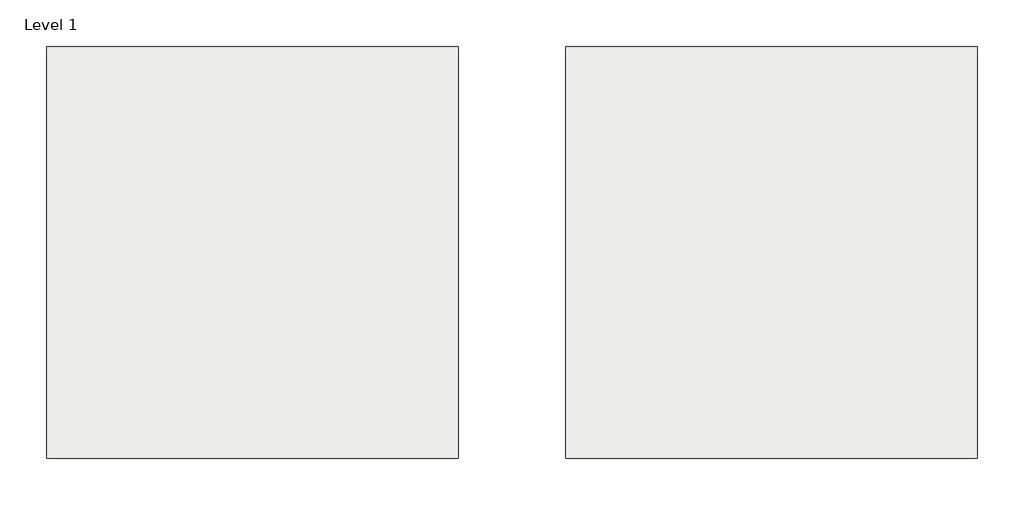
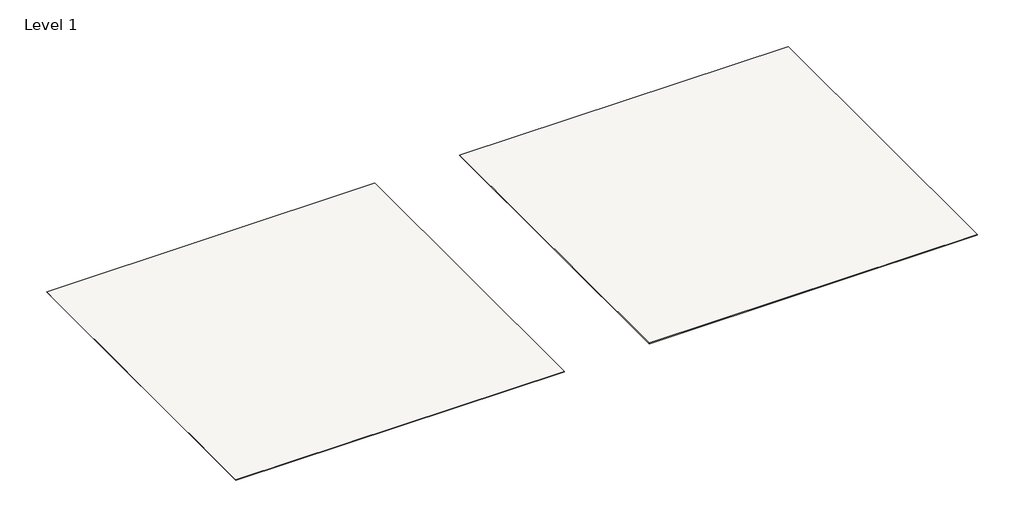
# One storey: 2 slabs.
"""IFC4 building model written with IfcOpenShell, lengths in millimetres."""

import ifcopenshell
import ifcopenshell.guid

model = None  # the IFC model being written
_history = None  # IfcOwnerHistory: only IFC2X3 demands one
_inside = {}  # id of a spatial element -> (the spatial element, [elements in it])
_under = {}  # id of a project, library or spatial element -> (it, [spatial elements below it])
_declared = {}  # id of a project -> (the project, [libraries it declares])
_typed = {}  # id of a type object -> (the type object, [elements of that type])
_made_of = {}  # id of a material, layer set ... -> (it, [elements and type objects made of it])


def new_model(schema):
    """Start an empty IFC model of exactly this schema.

    Asked for "IFC4X3", IfcOpenShell would pick the latest addendum, in which some entities
    have other attributes; the version numbers below select the first issue.
    IFC2X3 requires an IfcOwnerHistory on every rooted entity: one is made here for all.
    """
    global model, _history
    if schema == "IFC4X3":
        model = ifcopenshell.file(schema_version=(4, 3, 0, 0))
    else:
        model = ifcopenshell.file(schema=schema)
    _inside.clear()
    _under.clear()
    _declared.clear()
    _typed.clear()
    _made_of.clear()
    _history = None
    if model.schema == "IFC2X3":
        org = make("IfcOrganization", Name="unknown")
        user = make(
            "IfcPersonAndOrganization",
            ThePerson=make("IfcPerson", FamilyName="unknown"),
            TheOrganization=org,
        )
        app = make(
            "IfcApplication",
            ApplicationDeveloper=org,
            Version="unknown",
            ApplicationFullName="unknown",
            ApplicationIdentifier="unknown",
        )
        _history = make(
            "IfcOwnerHistory",
            OwningUser=user,
            OwningApplication=app,
            ChangeAction="ADDED",
            CreationDate=0,
        )
    return model


def make(cls, **values):
    """One entity of the class cls with the attributes given. An attribute that is None is left unset."""
    return model.create_entity(
        cls, **{name: value for name, value in values.items() if value is not None}
    )


def rooted(cls, **values):
    """An entity with a GlobalId (a new one), such as an element, a storey or a relation."""
    return make(cls, GlobalId=ifcopenshell.guid.new(), OwnerHistory=_history, **values)


def si_unit(unit_type, name, prefix=None):
    """IfcSIUnit, for example si_unit("LENGTHUNIT", "METRE", prefix="MILLI")."""
    return make("IfcSIUnit", UnitType=unit_type, Prefix=prefix, Name=name)


def assignment(units):
    """IfcUnitAssignment: the units of a project."""
    return None if units is None else make("IfcUnitAssignment", Units=units)


def point(xyz):
    """IfcCartesianPoint."""
    return None if xyz is None else make("IfcCartesianPoint", Coordinates=xyz)


def direction(xyz):
    """IfcDirection."""
    return None if xyz is None else make("IfcDirection", DirectionRatios=xyz)


def frame(location, z_axis=None, x_axis=None):
    """IfcAxis2Placement3D, a coordinate frame: its origin and axes. An axis left out is left unset."""
    return make(
        "IfcAxis2Placement3D",
        Location=point(location),
        Axis=direction(z_axis),
        RefDirection=direction(x_axis),
    )


def origin():
    """The frame at (0, 0, 0) with its axes left unset."""
    return frame((0.0, 0.0, 0.0))


def place(relative_to, where):
    """IfcLocalPlacement: puts the frame where relative to a parent placement (None: the world)."""
    return make(
        "IfcLocalPlacement", PlacementRelTo=relative_to, RelativePlacement=where
    )


def context(
    kind, dimensions, precision=None, world=None, true_north=None, identifier=None
):
    """IfcGeometricRepresentationContext, for example the 3D "Model" context."""
    return make(
        "IfcGeometricRepresentationContext",
        ContextIdentifier=identifier,
        ContextType=kind,
        CoordinateSpaceDimension=dimensions,
        Precision=precision,
        WorldCoordinateSystem=world,
        TrueNorth=true_north,
    )


def project(units=None, contexts=None):
    """IfcProject with its units and contexts."""
    return rooted(
        "IfcProject",
        Name="project",
        RepresentationContexts=contexts,
        UnitsInContext=assignment(units),
    )


def spatial(cls, under=None, at=None, **own):
    """A site, building, storey or space (cls), placed at a placement, below another one or the project."""
    s = rooted(cls, ObjectPlacement=at, **own)
    if under is not None:
        _under.setdefault(under.id(), (under, []))[1].append(s)
    return s


def polyline(points):
    """IfcPolyline through the points."""
    return make("IfcPolyline", Points=[point(p) for p in points])


def outline(outer, holes=None, kind="AREA"):
    """IfcArbitraryClosedProfileDef: a profile drawn as a closed curve; with holes, ...WithVoids."""
    if holes is None:
        return make("IfcArbitraryClosedProfileDef", ProfileType=kind, OuterCurve=outer)
    return make(
        "IfcArbitraryProfileDefWithVoids",
        ProfileType=kind,
        OuterCurve=outer,
        InnerCurves=holes,
    )


def extrude(swept, where, along, depth):
    """IfcExtrudedAreaSolid: the profile swept, set in the frame where, extruded along a direction by depth."""
    return make(
        "IfcExtrudedAreaSolid",
        SweptArea=swept,
        Position=where,
        ExtrudedDirection=direction(along),
        Depth=depth,
    )


def shape(context_of_items, identifier, shape_type, items):
    """IfcShapeRepresentation: the items that make up one representation, for example the "Body"."""
    return make(
        "IfcShapeRepresentation",
        ContextOfItems=context_of_items,
        RepresentationIdentifier=identifier,
        RepresentationType=shape_type,
        Items=items,
    )


def made_of(thing, what):
    """Note that an element or type object is made of a material, layer set ...; save() writes the relation."""
    if what is not None:
        _made_of.setdefault(what.id(), (what, []))[1].append(thing)
    return thing


def element(
    cls,
    number,
    at=None,
    inside=None,
    cuts=None,
    type_object=None,
    material=None,
    context=None,
    identifier="Body",
    shape_type=None,
    held_by="IfcProductDefinitionShape",
    body=None,
    shapes=None,
    **own,
):
    """One element of the class cls, such as IfcWall. Its Tag is "e" and its number.

    at: its placement. inside: the storey or other place that contains it. cuts: it is an
    opening in that element (IfcRelVoidsElement). A single representation is given by context,
    identifier, shape_type and body (its items); several are given by shapes. held_by: the class
    of the entity that holds the representations. save() writes the other relations.
    """
    e = rooted(cls, Tag="e%d" % number, ObjectPlacement=at, **own)
    if body is not None:
        shapes = [shape(context, identifier, shape_type, body)]
    if shapes is not None:
        e.Representation = make(held_by, Representations=shapes)
    if inside is not None:
        _inside.setdefault(inside.id(), (inside, []))[1].append(e)
    if cuts is not None:
        rooted(
            "IfcRelVoidsElement", RelatingBuildingElement=cuts, RelatedOpeningElement=e
        )
    if type_object is not None:
        _typed.setdefault(type_object.id(), (type_object, []))[1].append(e)
    return made_of(e, material)


def aggregate(whole, parts):
    """IfcRelAggregates: a whole, such as a stair, and the parts it consists of."""
    return rooted("IfcRelAggregates", RelatingObject=whole, RelatedObjects=parts)


def save(model, path):
    """Write the relations noted so far, then the file.

    IfcRelAggregates (storeys below a building ...), IfcRelContainedInSpatialStructure (elements
    in a storey), IfcRelDefinesByType, IfcRelAssociatesMaterial and IfcRelDeclares: one each for
    every whole, place, type object, material and project.
    """
    for whole, parts in _under.values():
        aggregate(whole, parts)
    for where, things in _inside.values():
        rooted(
            "IfcRelContainedInSpatialStructure",
            RelatedElements=things,
            RelatingStructure=where,
        )
    for kind, things in _typed.values():
        rooted("IfcRelDefinesByType", RelatedObjects=things, RelatingType=kind)
    for what, things in _made_of.values():
        rooted("IfcRelAssociatesMaterial", RelatedObjects=things, RelatingMaterial=what)
    for by, libraries in _declared.values():
        rooted("IfcRelDeclares", RelatingContext=by, RelatedDefinitions=libraries)
    model.write(path)


model = new_model("IFC4")

# Units and contexts
model_context = context("Model", 3, world=origin())
ifc_project = project(units=[si_unit("LENGTHUNIT", "METRE", prefix="MILLI")], contexts=[model_context])

# Site, building, storey
site = spatial("IfcSite", under=ifc_project)
building = spatial("IfcBuilding", under=site)
storey = spatial("IfcBuildingStorey", under=building, Name="Level 1", Elevation=0.0)

# Slabs
placement = place(None, origin())
element("IfcSlab", 1, ObjectType="Thesize_Neolith_6mm+-Mont Blanc - 3200x1600 mm - Silk", at=placement, inside=storey, context=model_context, shape_type="SweptSolid", body=[
    extrude(outline(polyline([(24932.6076717, -41757.477561), (24932.6076717, -46757.477561), (19932.6076717, -46757.477561), (19932.6076717, -41757.477561), (24932.6076717, -41757.477561)])), frame((0.0, 0.0, -6.0), z_axis=(0.0, 0.0, 1.0), x_axis=(1.0, 0.0, 0.0)), (0.0, 0.0, 1.0), 6.0),
])
element("IfcSlab", 2, ObjectType="Thesize_Neolith_12mm-Mont Blanc - 3200x1600 mm - Silk", at=placement, inside=storey, context=model_context, shape_type="SweptSolid", body=[
    extrude(outline(polyline([(31232.6076717, -41757.477561), (31232.6076717, -46757.477561), (26232.6076717, -46757.477561), (26232.6076717, -41757.477561), (31232.6076717, -41757.477561)])), frame((0.0, 0.0, -12.0), z_axis=(0.0, 0.0, 1.0), x_axis=(1.0, 0.0, 0.0)), (0.0, 0.0, 1.0), 12.0),
])

save(model, "model.ifc")
